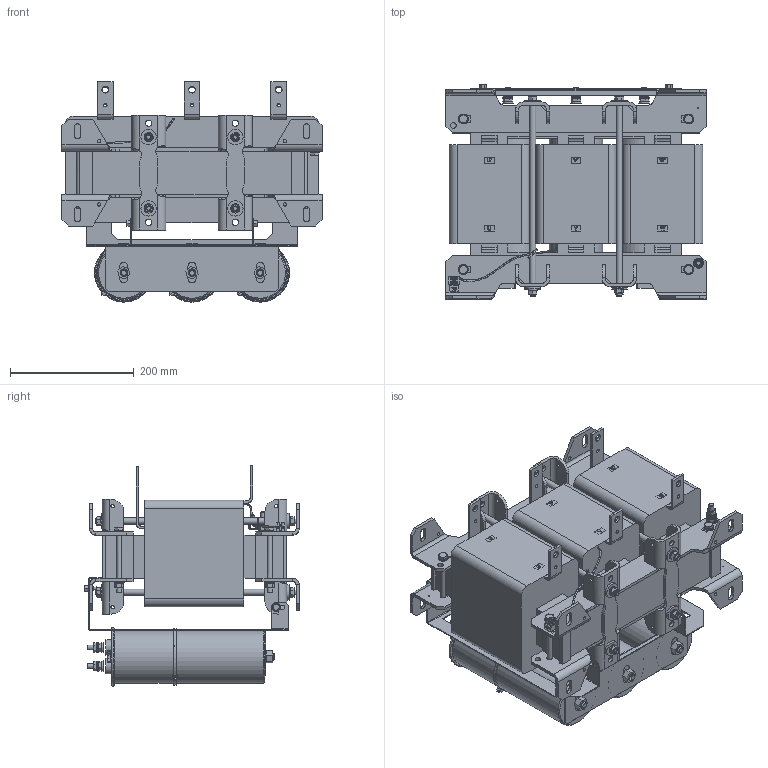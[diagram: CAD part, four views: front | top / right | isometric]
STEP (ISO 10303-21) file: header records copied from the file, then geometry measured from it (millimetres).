
FILE_DESCRIPTION(/* description */ (''),/* implementation_level */ '2;1');
FILE_NAME(/* name */ 'C:\Users\Erika.Jenzer\Desktop\CO20007647\Step Files\FN5420-200-99-E0XXT.stp',/* time_stamp */ '2021-03-02T09:38:32+01:00',/* author */ ('erika.jenzer'),/* organization */ (''),/* preprocessor_version */ 'ST-DEVELOPER v18.1',/* originating_system */ 'Autodesk Inventor 2020',/* authorisation */ '');
FILE_SCHEMA (('AUTOMOTIVE_DESIGN { 1 0 10303 214 3 1 1 }'));
Products named in the file (1): FN5420-200-99-E0XXT
Bounding box: 420 x 345.95 x 355.67 mm (x, y, z)
Volume: 18932822.6 mm3; surface area: 1407620.8 mm2
Topology: 16 solids, 16 shells, 2382 faces, 6621 edges, 4380 vertices
Faces by surface type: plane 1557, cylinder 588, cone 139, bspline 69, torus 16, sphere 13
Full cylindrical faces by diameter (mm): 0.003 x2, 1 x1, 2.013 x4, 2.3 x1, 2.5 x1, 2.8 x5, 3.4 x4, 5.5 x26, 6 x8, 8 x41, 8.2 x1, 8.4 x18, 8.6 x12, 9 x12, 9.5 x4, 10.2 x16, 10.5 x7, 11 x6, 11.4 x5, 11.5 x6, 12 x9, 12.5 x3, 13 x4, 16 x22, 22 x6, 24.7 x6, 25 x8, 86 x3
Entity records: 82246 total; most frequent: CARTESIAN_POINT 18278, ORIENTED_EDGE 13242, DIRECTION 12402, EDGE_CURVE 6621, VERTEX_POINT 4380, AXIS2_PLACEMENT_3D 4183, LINE 4036, VECTOR 4036
